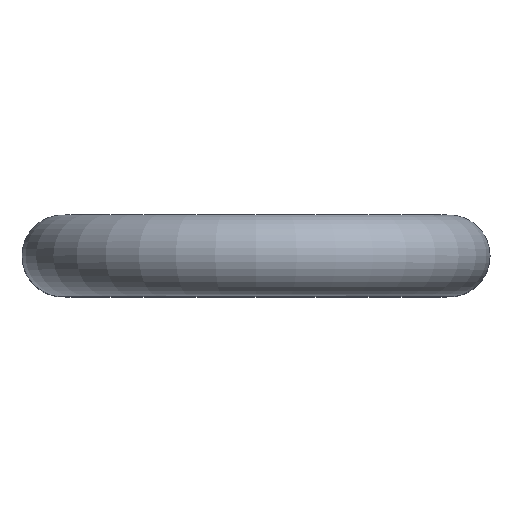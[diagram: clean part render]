
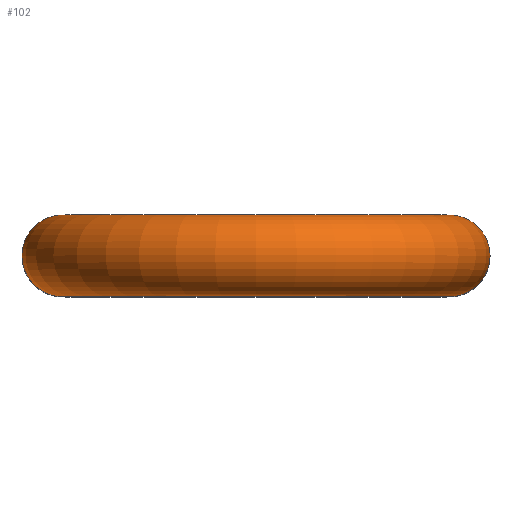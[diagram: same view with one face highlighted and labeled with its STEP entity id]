
A CAD part, top view. The second image highlights one B-rep face of the part: STEP entity #102.
In plain terms, the highlighted toroidal (fillet/blend) face has major radius 38 mm and minor radius 8 mm.
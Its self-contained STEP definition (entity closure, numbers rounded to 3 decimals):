
#24 = VERTEX_POINT('',#25);
#25 = CARTESIAN_POINT('',(-27.693,0.,906.242));
#32 = CYLINDRICAL_SURFACE('',#33,8.);
#33 = AXIS2_PLACEMENT_3D('',#34,#35,#36);
#34 = CARTESIAN_POINT('',(-35.693,0.,846.242));
#35 = DIRECTION('',(0.,0.,1.));
#36 = DIRECTION('',(1.,0.,-0.));
#50 = EDGE_CURVE('',#24,#24,#51,.T.);
#51 = SURFACE_CURVE('',#52,(#57,#64),.PCURVE_S1.);
#52 = CIRCLE('',#53,8.);
#53 = AXIS2_PLACEMENT_3D('',#54,#55,#56);
#54 = CARTESIAN_POINT('',(-35.693,0.,906.242));
#55 = DIRECTION('',(0.,0.,1.));
#56 = DIRECTION('',(1.,0.,-0.));
#57 = PCURVE('',#32,#58);
#58 = DEFINITIONAL_REPRESENTATION('',(#59),#63);
#59 = LINE('',#60,#61);
#60 = CARTESIAN_POINT('',(0.,60.));
#61 = VECTOR('',#62,1.);
#62 = DIRECTION('',(1.,0.));
#63 = ( GEOMETRIC_REPRESENTATION_CONTEXT(2) 
PARAMETRIC_REPRESENTATION_CONTEXT() REPRESENTATION_CONTEXT('2D SPACE',''
  ) );
#64 = PCURVE('',#65,#70);
#65 = TOROIDAL_SURFACE('',#66,38.,8.);
#66 = AXIS2_PLACEMENT_3D('',#67,#68,#69);
#67 = CARTESIAN_POINT('',(2.307,0.,906.242));
#68 = DIRECTION('',(0.,1.,-0.));
#69 = DIRECTION('',(-1.,0.,0.));
#70 = DEFINITIONAL_REPRESENTATION('',(#71),#74);
#71 = B_SPLINE_CURVE_WITH_KNOTS('',1,(#72,#73),.UNSPECIFIED.,.F.,.F.,(2,
    2),(0.,6.283),.PIECEWISE_BEZIER_KNOTS.);
#72 = CARTESIAN_POINT('',(0.,9.425));
#73 = CARTESIAN_POINT('',(0.,3.142));
#74 = ( GEOMETRIC_REPRESENTATION_CONTEXT(2) 
PARAMETRIC_REPRESENTATION_CONTEXT() REPRESENTATION_CONTEXT('2D SPACE',''
  ) );
#102 = ADVANCED_FACE('',(#103),#65,.T.);
#103 = FACE_BOUND('',#104,.T.);
#104 = EDGE_LOOP('',(#105,#128,#154,#155));
#105 = ORIENTED_EDGE('',*,*,#106,.T.);
#106 = EDGE_CURVE('',#24,#107,#109,.T.);
#107 = VERTEX_POINT('',#108);
#108 = CARTESIAN_POINT('',(32.307,0.,906.242));
#109 = SEAM_CURVE('',#110,(#115,#121),.PCURVE_S1.);
#110 = CIRCLE('',#111,30.);
#111 = AXIS2_PLACEMENT_3D('',#112,#113,#114);
#112 = CARTESIAN_POINT('',(2.307,0.,906.242));
#113 = DIRECTION('',(0.,1.,-0.));
#114 = DIRECTION('',(-1.,0.,0.));
#115 = PCURVE('',#65,#116);
#116 = DEFINITIONAL_REPRESENTATION('',(#117),#120);
#117 = B_SPLINE_CURVE_WITH_KNOTS('',1,(#118,#119),.UNSPECIFIED.,.F.,.F.,
  (2,2),(0.,3.142),.PIECEWISE_BEZIER_KNOTS.);
#118 = CARTESIAN_POINT('',(0.,3.142));
#119 = CARTESIAN_POINT('',(3.142,3.142));
#120 = ( GEOMETRIC_REPRESENTATION_CONTEXT(2) 
PARAMETRIC_REPRESENTATION_CONTEXT() REPRESENTATION_CONTEXT('2D SPACE',''
  ) );
#121 = PCURVE('',#65,#122);
#122 = DEFINITIONAL_REPRESENTATION('',(#123),#127);
#123 = LINE('',#124,#125);
#124 = CARTESIAN_POINT('',(0.,9.425));
#125 = VECTOR('',#126,1.);
#126 = DIRECTION('',(1.,0.));
#127 = ( GEOMETRIC_REPRESENTATION_CONTEXT(2) 
PARAMETRIC_REPRESENTATION_CONTEXT() REPRESENTATION_CONTEXT('2D SPACE',''
  ) );
#128 = ORIENTED_EDGE('',*,*,#129,.T.);
#129 = EDGE_CURVE('',#107,#107,#130,.T.);
#130 = SURFACE_CURVE('',#131,(#136,#143),.PCURVE_S1.);
#131 = CIRCLE('',#132,8.);
#132 = AXIS2_PLACEMENT_3D('',#133,#134,#135);
#133 = CARTESIAN_POINT('',(40.307,0.,906.242));
#134 = DIRECTION('',(0.,0.,1.));
#135 = DIRECTION('',(1.,0.,0.));
#136 = PCURVE('',#65,#137);
#137 = DEFINITIONAL_REPRESENTATION('',(#138),#142);
#138 = LINE('',#139,#140);
#139 = CARTESIAN_POINT('',(3.142,0.));
#140 = VECTOR('',#141,1.);
#141 = DIRECTION('',(0.,1.));
#142 = ( GEOMETRIC_REPRESENTATION_CONTEXT(2) 
PARAMETRIC_REPRESENTATION_CONTEXT() REPRESENTATION_CONTEXT('2D SPACE',''
  ) );
#143 = PCURVE('',#144,#149);
#144 = CYLINDRICAL_SURFACE('',#145,8.);
#145 = AXIS2_PLACEMENT_3D('',#146,#147,#148);
#146 = CARTESIAN_POINT('',(40.307,0.,906.242));
#147 = DIRECTION('',(0.,0.,-1.));
#148 = DIRECTION('',(-1.,0.,0.));
#149 = DEFINITIONAL_REPRESENTATION('',(#150),#153);
#150 = B_SPLINE_CURVE_WITH_KNOTS('',1,(#151,#152),.UNSPECIFIED.,.F.,.F.,
  (2,2),(3.142,9.425),.PIECEWISE_BEZIER_KNOTS.);
#151 = CARTESIAN_POINT('',(6.283,0.));
#152 = CARTESIAN_POINT('',(0.,0.));
#153 = ( GEOMETRIC_REPRESENTATION_CONTEXT(2) 
PARAMETRIC_REPRESENTATION_CONTEXT() REPRESENTATION_CONTEXT('2D SPACE',''
  ) );
#154 = ORIENTED_EDGE('',*,*,#106,.F.);
#155 = ORIENTED_EDGE('',*,*,#50,.T.);
